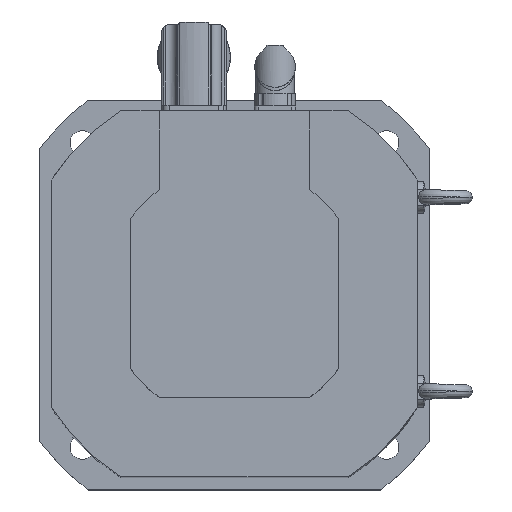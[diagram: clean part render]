
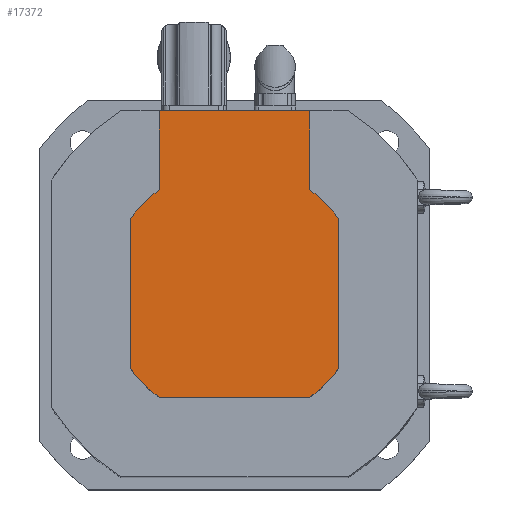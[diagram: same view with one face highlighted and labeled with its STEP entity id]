
A CAD part, top view. The second image highlights one B-rep face of the part: STEP entity #17372.
In plain terms, the highlighted planar face has unit normal (0, 0, 1).
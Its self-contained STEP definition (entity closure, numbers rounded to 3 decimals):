
#17120=CARTESIAN_POINT('',(64.,46.314,54.));
#17121=VERTEX_POINT('',#17120);
#17128=CARTESIAN_POINT('',(64.,-46.314,54.));
#17129=VERTEX_POINT('',#17128);
#17130=CARTESIAN_POINT('',(64.,-46.314,54.));
#17131=DIRECTION('',(0.0,1.0,0.0));
#17132=VECTOR('',#17131,92.628);
#17133=LINE('',#17130,#17132);
#17134=EDGE_CURVE('',#17129,#17121,#17133,.T.);
#17159=CARTESIAN_POINT('',(-64.,-46.314,54.));
#17160=VERTEX_POINT('',#17159);
#17167=CARTESIAN_POINT('',(-64.,46.314,54.));
#17168=VERTEX_POINT('',#17167);
#17169=CARTESIAN_POINT('',(-64.,46.314,54.));
#17170=DIRECTION('',(0.0,-1.0,0.0));
#17171=VECTOR('',#17170,92.628);
#17172=LINE('',#17169,#17171);
#17173=EDGE_CURVE('',#17168,#17160,#17172,.T.);
#17190=CARTESIAN_POINT('',(46.314,-64.,54.));
#17191=VERTEX_POINT('',#17190);
#17198=CARTESIAN_POINT('',(-46.314,-64.,54.));
#17199=VERTEX_POINT('',#17198);
#17200=CARTESIAN_POINT('',(-46.314,-64.,54.));
#17201=DIRECTION('',(1.0,0.0,0.0));
#17202=VECTOR('',#17201,92.628);
#17203=LINE('',#17200,#17202);
#17204=EDGE_CURVE('',#17199,#17191,#17203,.T.);
#17222=CARTESIAN_POINT('',(0.0,0.0,54.0));
#17223=DIRECTION('',(0.0,0.0,-1.0));
#17224=DIRECTION('',(-1.0,0.0,0.0));
#17225=AXIS2_PLACEMENT_3D('',#17222,#17223,#17224);
#17226=CIRCLE('',#17225,79.0);
#17227=EDGE_CURVE('',#17129,#17191,#17226,.T.);
#17241=CARTESIAN_POINT('',(46.314,64.0,54.));
#17242=VERTEX_POINT('',#17241);
#17249=CARTESIAN_POINT('',(0.0,0.0,54.0));
#17250=DIRECTION('',(0.0,0.0,-1.0));
#17251=DIRECTION('',(-1.0,0.0,0.0));
#17252=AXIS2_PLACEMENT_3D('',#17249,#17250,#17251);
#17253=CIRCLE('',#17252,79.0);
#17254=EDGE_CURVE('',#17242,#17121,#17253,.T.);
#17265=CARTESIAN_POINT('',(-46.314,64.0,54.));
#17266=VERTEX_POINT('',#17265);
#17267=CARTESIAN_POINT('',(0.0,0.0,54.0));
#17268=DIRECTION('',(0.0,0.0,-1.0));
#17269=DIRECTION('',(-1.0,0.0,0.0));
#17270=AXIS2_PLACEMENT_3D('',#17267,#17268,#17269);
#17271=CIRCLE('',#17270,79.0);
#17272=EDGE_CURVE('',#17168,#17266,#17271,.T.);
#17292=CARTESIAN_POINT('',(0.0,0.0,54.0));
#17293=DIRECTION('',(0.0,0.0,-1.0));
#17294=DIRECTION('',(-1.0,0.0,0.0));
#17295=AXIS2_PLACEMENT_3D('',#17292,#17293,#17294);
#17296=CIRCLE('',#17295,79.0);
#17297=EDGE_CURVE('',#17199,#17160,#17296,.T.);
#17309=CARTESIAN_POINT('',(-46.314,112.5,54.));
#17310=VERTEX_POINT('',#17309);
#17311=CARTESIAN_POINT('',(-46.314,64.0,54.));
#17312=DIRECTION('',(0.0,1.0,0.0));
#17313=VECTOR('',#17312,48.5);
#17314=LINE('',#17311,#17313);
#17315=EDGE_CURVE('',#17266,#17310,#17314,.T.);
#17331=CARTESIAN_POINT('',(46.314,112.5,54.));
#17332=VERTEX_POINT('',#17331);
#17339=CARTESIAN_POINT('',(46.314,64.0,54.));
#17340=DIRECTION('',(0.0,1.0,0.0));
#17341=VECTOR('',#17340,48.5);
#17342=LINE('',#17339,#17341);
#17343=EDGE_CURVE('',#17242,#17332,#17342,.T.);
#17350=CARTESIAN_POINT('',(64.,-64.,54.0));
#17351=DIRECTION('',(0.0,0.0,-1.0));
#17352=DIRECTION('',(-1.0,0.0,0.0));
#17353=AXIS2_PLACEMENT_3D('',#17350,#17351,#17352);
#17354=PLANE('',#17353);
#17355=ORIENTED_EDGE('',*,*,#17134,.T.);
#17356=ORIENTED_EDGE('',*,*,#17254,.F.);
#17357=ORIENTED_EDGE('',*,*,#17343,.T.);
#17358=CARTESIAN_POINT('',(-46.314,112.5,54.));
#17359=DIRECTION('',(1.0,0.0,0.0));
#17360=VECTOR('',#17359,92.628);
#17361=LINE('',#17358,#17360);
#17362=EDGE_CURVE('',#17310,#17332,#17361,.T.);
#17363=ORIENTED_EDGE('',*,*,#17362,.F.);
#17364=ORIENTED_EDGE('',*,*,#17315,.F.);
#17365=ORIENTED_EDGE('',*,*,#17272,.F.);
#17366=ORIENTED_EDGE('',*,*,#17173,.T.);
#17367=ORIENTED_EDGE('',*,*,#17297,.F.);
#17368=ORIENTED_EDGE('',*,*,#17204,.T.);
#17369=ORIENTED_EDGE('',*,*,#17227,.F.);
#17370=EDGE_LOOP('',(#17355,#17356,#17357,#17363,#17364,#17365,#17366,#17367,#17368,#17369));
#17371=FACE_OUTER_BOUND('',#17370,.T.);
#17372=ADVANCED_FACE('',(#17371),#17354,.F.);
